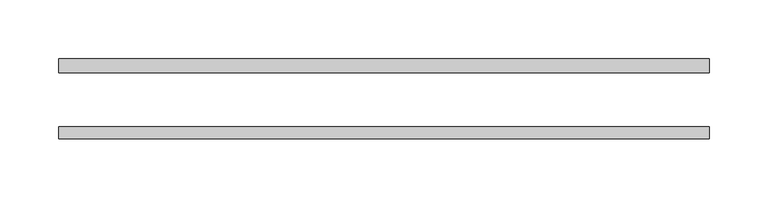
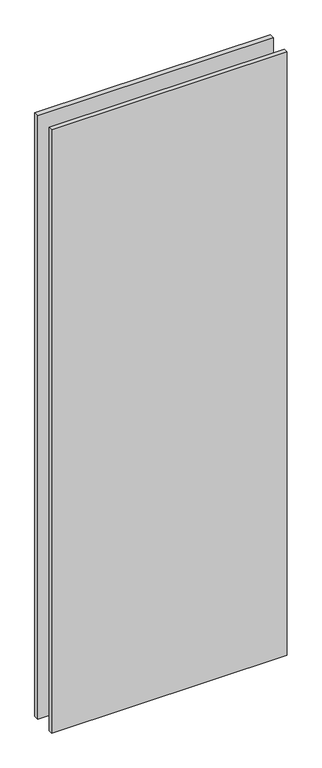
"""IFC4 building model written with IfcOpenShell, lengths in millimetres: plate geometry, Danpal Glass : Danpal Glass."""

from ifc_helpers import new_model, si_unit, origin, origin_with_axes, place, context, project, spatial, polyline, outline, extrude, source, transform, mapped, element, save


def plate_3ec01e9a(model_context):
    return source(origin(), model_context, "Body", "SweptSolid", [
        extrude(outline(polyline([(-277.0000002, 79.9), (277.0000002, 79.9), (277.0000002, 67.9), (-277.0000002, 67.9), (-277.0000002, 79.9)])), origin_with_axes(), (0.0, 0.0, 1.0), 1500.0),
        extrude(outline(polyline([(277.0000002, 11.9), (-277.0000002, 11.9), (-277.0000002, 21.9), (277.0000002, 21.9), (277.0000002, 11.9)])), origin_with_axes(), (0.0, 0.0, 1.0), 1500.0),
    ])


if __name__ == "__main__":
    model = new_model("IFC4")
    model_context = context("Model", 3, world=origin())
    ifc_project = project(units=[si_unit("LENGTHUNIT", "METRE", prefix="MILLI")], contexts=[model_context])
    site = spatial("IfcSite", under=ifc_project)
    building = spatial("IfcBuilding", under=site)
    placement = place(None, origin())
    plate_shape = plate_3ec01e9a(model_context)
    element("IfcPlate", 1, ObjectType="Danpal Glass : Danpal Glass", at=placement, inside=building, context=model_context, shape_type="MappedRepresentation", body=[
        mapped(plate_shape, transform((0.0, 0.0, 0.0), x_axis=(1.0, 0.0, 0.0), y_axis=(0.0, 1.0, 0.0), z_axis=(0.0, 0.0, 1.0))),
    ])
    save(model, "model.ifc")
